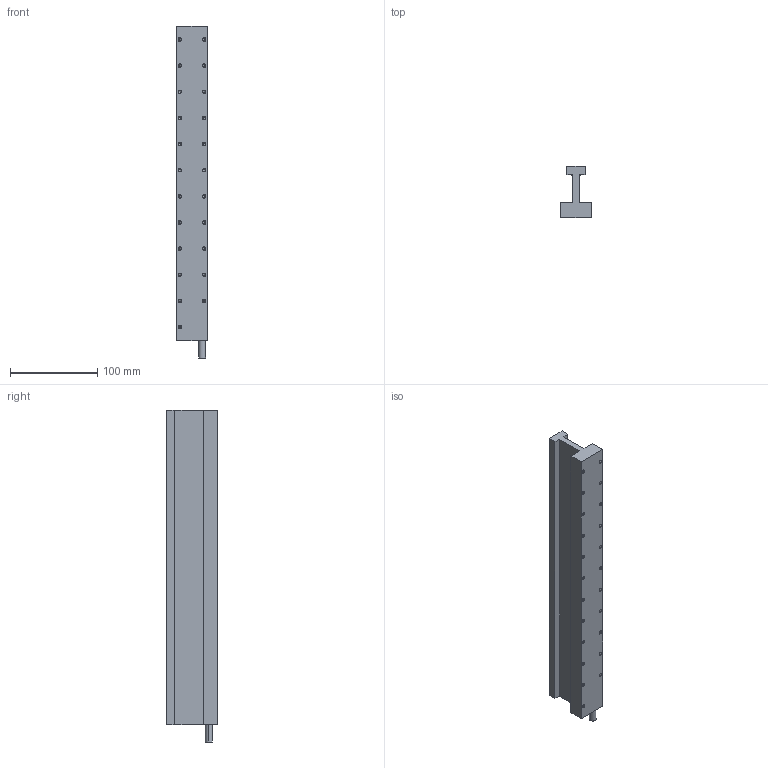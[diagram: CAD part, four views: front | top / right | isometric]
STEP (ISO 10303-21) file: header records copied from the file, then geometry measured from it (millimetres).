
FILE_DESCRIPTION (( 'STEP AP214' ), '1' );
FILE_NAME ('JKA36.STEP', '2025-09-05T12:44:26', ( '' ), ( '' ), 'SwSTEP 2.0', 'SolidWorks 2016', '' );
FILE_SCHEMA (( 'AUTOMOTIVE_DESIGN' ));
Length unit declared in the file: millimetre
Products named in the file (1): JKA36
Bounding box: 35 x 58.8 x 381 mm (x, y, z)
Volume: 361947.8 mm3; surface area: 82432.9 mm2
Topology: 1 solids, 1 shells, 155 faces, 364 edges, 189 vertices
Faces by surface type: cone 92, cylinder 48, plane 15
Entity records: 4582 total; most frequent: DIRECTION 772, CARTESIAN_POINT 663, ORIENTED_EDGE 636, EDGE_CURVE 318, AXIS2_PLACEMENT_3D 298, VERTEX_POINT 189, EDGE_LOOP 179, LINE 176
